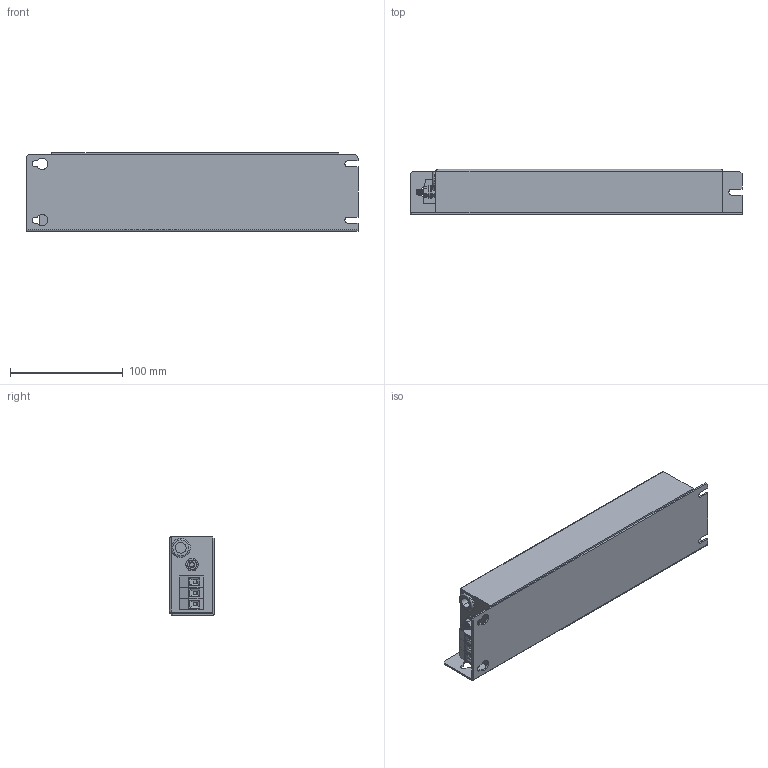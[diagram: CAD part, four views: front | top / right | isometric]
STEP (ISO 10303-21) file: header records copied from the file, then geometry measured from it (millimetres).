
FILE_DESCRIPTION (( 'STEP AP203' ), '1' );
FILE_NAME ('NF-U-LE-8400-34004.STEP', '2024-04-16T13:19:32', ( '' ), ( '' ), 'SwSTEP 2.0', 'SolidWorks 2017', '' );
FILE_SCHEMA (( 'CONFIG_CONTROL_DESIGN' ));
Length unit declared in the file: millimetre
Products named in the file (9): M5x13 Earth post; VDFK-4; hex screw_am_B18.6.7M - M5 x 0.8 x 13 Indented HHMS --13S; NF-U-LE-8400-34004; hex nut style 1_am_B18.2.4.1M - Hex nut, Style 1,  M5 x 0.8 --D-N; Grommet_15084; VDFK4x3; 84LZ2; flat washer narrow_am_B18.22M - Plain washer, 5 mm, narrow
Assembly tree (11 placements, depth 3):
  NF-U-LE-8400-34004
    84LZ2
    VDFK4x3
      VDFK-4  x3
    M5x13 Earth post
      hex screw_am_B18.6.7M - M5 x 0.8 x 13 Indented HHMS --13S
      flat washer narrow_am_B18.22M - Plain washer, 5 mm, narrow  x2
      hex nut style 1_am_B18.2.4.1M - Hex nut, Style 1,  M5 x 0.8 --D-N
    Grommet_15084
Bounding box: 295 x 40 x 70 mm (x, y, z)
Volume: 723594.6 mm3; surface area: 77285.2 mm2
Topology: 9 solids, 9 shells, 369 faces, 900 edges, 566 vertices
Faces by surface type: plane 164, cylinder 103, cone 96, torus 4, sphere 2
Entity records: 9675 total; most frequent: CARTESIAN_POINT 1613, DIRECTION 1598, ORIENTED_EDGE 1408, EDGE_CURVE 704, AXIS2_PLACEMENT_3D 627, VERTEX_POINT 442, VECTOR 344, LINE 344
